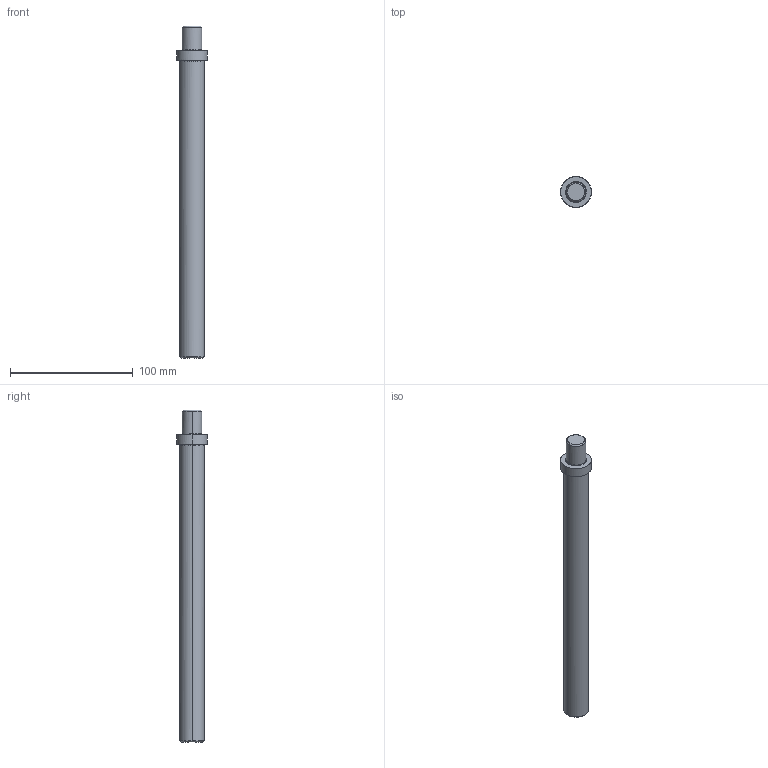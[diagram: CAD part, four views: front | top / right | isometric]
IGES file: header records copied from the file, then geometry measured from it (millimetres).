
Global section: file name: E:\UnigraphicsGraphicData\MISUMI_PRESS-PARTS\IGES\3d_lcp20-250-20_06986_r00.igs; native system: NX V5.0; preprocessor: UGS NX IGES V5.0; author: MISUMI; date: 20110105.161155; units: millimetre
Bounding box: 25 x 25 x 270 mm (x, y, z)
Surface area: 17730.5 mm2 (no closed solid volume)
Topology: 0 solids, 0 shells, 18 faces, 104 edges, 104 vertices
Faces by surface type: bspline 18
